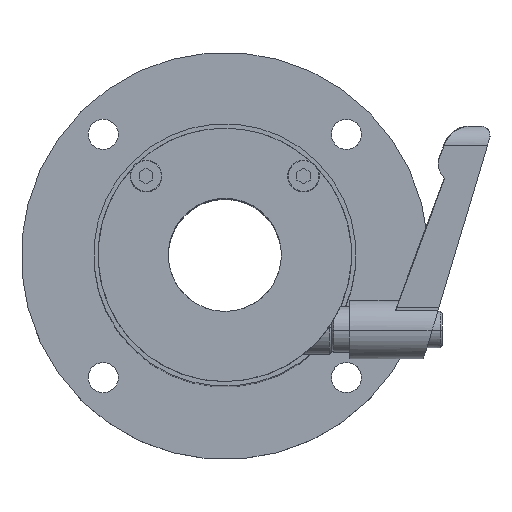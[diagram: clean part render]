
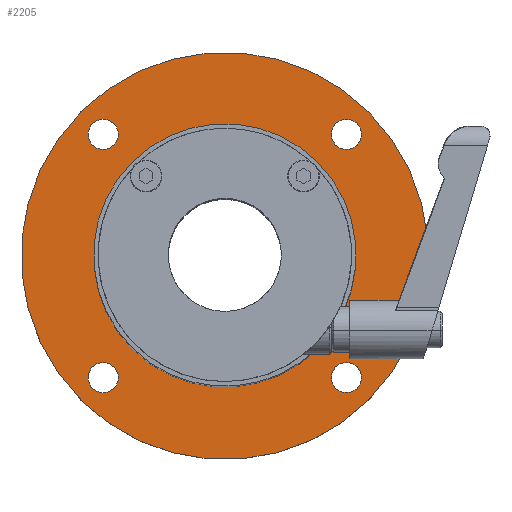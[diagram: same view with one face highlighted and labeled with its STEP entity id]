
A CAD part, top view. The second image highlights one B-rep face of the part: STEP entity #2205.
In plain terms, the highlighted planar face has unit normal (0, 0, 1).
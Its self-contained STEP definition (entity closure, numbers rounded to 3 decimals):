
#109 = PLANE ( 'NONE',  #4576 ) ;
#141 = EDGE_CURVE ( 'NONE', #5905, #3443, #7037, .T. ) ;
#209 = FACE_BOUND ( 'NONE', #997, .T. ) ;
#233 = DIRECTION ( 'NONE',  ( -0.707, -0.707, 0. ) ) ;
#242 = CARTESIAN_POINT ( 'NONE',  ( -25.297, 25.291, 78. ) ) ;
#259 = CARTESIAN_POINT ( 'NONE',  ( 28.443, 29.991, 78. ) ) ;
#471 = CARTESIAN_POINT ( 'NONE',  ( 3.923, 0.771, 78. ) ) ;
#481 = EDGE_CURVE ( 'NONE', #4512, #9428, #5369, .T. ) ;
#565 = DIRECTION ( 'NONE',  ( 0., 0., -1. ) ) ;
#575 = DIRECTION ( 'NONE',  ( 0., 0., -1. ) ) ;
#653 = EDGE_CURVE ( 'NONE', #1469, #8098, #7497, .T. ) ;
#705 = CARTESIAN_POINT ( 'NONE',  ( -25.297, -23.749, 78. ) ) ;
#748 = AXIS2_PLACEMENT_3D ( 'NONE', #9544, #565, #8626 ) ;
#775 = ORIENTED_EDGE ( 'NONE', *, *, #141, .T. ) ;
#854 = DIRECTION ( 'NONE',  ( 0.707, 0.707, 0. ) ) ;
#907 = AXIS2_PLACEMENT_3D ( 'NONE', #471, #2702, #1198 ) ;
#972 = DIRECTION ( 'NONE',  ( -0.707, -0.707, 0. ) ) ;
#978 = AXIS2_PLACEMENT_3D ( 'NONE', #8338, #3726, #854 ) ;
#997 = EDGE_LOOP ( 'NONE', ( #7755, #2566 ) ) ;
#1106 = VERTEX_POINT ( 'NONE', #259 ) ;
#1184 = EDGE_LOOP ( 'NONE', ( #6793, #6377 ) ) ;
#1198 = DIRECTION ( 'NONE',  ( -0.707, -0.707, 0. ) ) ;
#1268 = ORIENTED_EDGE ( 'NONE', *, *, #7206, .T. ) ;
#1328 = VERTEX_POINT ( 'NONE', #3420 ) ;
#1469 = VERTEX_POINT ( 'NONE', #7656 ) ;
#1513 = CIRCLE ( 'NONE', #5559, 3.324 ) ;
#1530 = EDGE_CURVE ( 'NONE', #8098, #1469, #8015, .T. ) ;
#1544 = CARTESIAN_POINT ( 'NONE',  ( 33.143, -23.749, 78. ) ) ;
#1701 = DIRECTION ( 'NONE',  ( -0.707, 0.707, 0. ) ) ;
#1710 = CARTESIAN_POINT ( 'NONE',  ( -27.897, -31.049, 78. ) ) ;
#1903 = CIRCLE ( 'NONE', #978, 3.324 ) ;
#1977 = CIRCLE ( 'NONE', #907, 45. ) ;
#2053 = ORIENTED_EDGE ( 'NONE', *, *, #481, .F. ) ;
#2124 = VERTEX_POINT ( 'NONE', #2398 ) ;
#2182 = EDGE_LOOP ( 'NONE', ( #2053, #3541 ) ) ;
#2205 = ADVANCED_FACE ( 'NONE', ( #4590, #4539, #209, #6827, #3126, #9094 ), #109, .T. ) ;
#2398 = CARTESIAN_POINT ( 'NONE',  ( 33.143, 25.291, 78. ) ) ;
#2551 = AXIS2_PLACEMENT_3D ( 'NONE', #9096, #3129, #3079 ) ;
#2566 = ORIENTED_EDGE ( 'NONE', *, *, #8729, .T. ) ;
#2702 = DIRECTION ( 'NONE',  ( 0., 0., -1. ) ) ;
#2845 = AXIS2_PLACEMENT_3D ( 'NONE', #7523, #4599, #3663 ) ;
#2859 = VERTEX_POINT ( 'NONE', #705 ) ;
#2932 = EDGE_CURVE ( 'NONE', #3443, #5905, #1903, .T. ) ;
#3077 = CARTESIAN_POINT ( 'NONE',  ( -22.24, -25.392, 78. ) ) ;
#3079 = DIRECTION ( 'NONE',  ( -0.707, -0.707, 0. ) ) ;
#3094 = ORIENTED_EDGE ( 'NONE', *, *, #2932, .T. ) ;
#3126 = FACE_BOUND ( 'NONE', #5869, .T. ) ;
#3129 = DIRECTION ( 'NONE',  ( 0., 0., -1. ) ) ;
#3218 = DIRECTION ( 'NONE',  ( 0., 0., -1. ) ) ;
#3301 = AXIS2_PLACEMENT_3D ( 'NONE', #8767, #8712, #5751 ) ;
#3420 = CARTESIAN_POINT ( 'NONE',  ( 24.429, 21.277, 78. ) ) ;
#3443 = VERTEX_POINT ( 'NONE', #9484 ) ;
#3541 = ORIENTED_EDGE ( 'NONE', *, *, #7135, .F. ) ;
#3663 = DIRECTION ( 'NONE',  ( 0.707, 0.707, 0. ) ) ;
#3688 = ORIENTED_EDGE ( 'NONE', *, *, #3882, .T. ) ;
#3695 = CIRCLE ( 'NONE', #748, 29. ) ;
#3726 = DIRECTION ( 'NONE',  ( 0., 0., -1. ) ) ;
#3728 = DIRECTION ( 'NONE',  ( -0.707, 0.707, 0. ) ) ;
#3849 = ORIENTED_EDGE ( 'NONE', *, *, #1530, .T. ) ;
#3882 = EDGE_CURVE ( 'NONE', #5975, #2859, #4602, .T. ) ;
#4208 = AXIS2_PLACEMENT_3D ( 'NONE', #4399, #9593, #5140 ) ;
#4317 = DIRECTION ( 'NONE',  ( -0.707, 0.707, 0. ) ) ;
#4348 = AXIS2_PLACEMENT_3D ( 'NONE', #7525, #9052, #8280 ) ;
#4399 = CARTESIAN_POINT ( 'NONE',  ( 30.793, -26.099, 78. ) ) ;
#4428 = AXIS2_PLACEMENT_3D ( 'NONE', #4671, #6899, #233 ) ;
#4512 = VERTEX_POINT ( 'NONE', #1710 ) ;
#4525 = EDGE_LOOP ( 'NONE', ( #3094, #775 ) ) ;
#4539 = FACE_BOUND ( 'NONE', #4525, .T. ) ;
#4576 = AXIS2_PLACEMENT_3D ( 'NONE', #3077, #8271, #1701 ) ;
#4590 = FACE_OUTER_BOUND ( 'NONE', #2182, .T. ) ;
#4599 = DIRECTION ( 'NONE',  ( 0., 0., -1. ) ) ;
#4602 = CIRCLE ( 'NONE', #7869, 3.324 ) ;
#4671 = CARTESIAN_POINT ( 'NONE',  ( 3.923, 0.771, 78. ) ) ;
#5140 = DIRECTION ( 'NONE',  ( -0.707, -0.707, 0. ) ) ;
#5178 = EDGE_LOOP ( 'NONE', ( #8451, #3849 ) ) ;
#5224 = DIRECTION ( 'NONE',  ( 0., 0., -1. ) ) ;
#5369 = CIRCLE ( 'NONE', #4428, 45. ) ;
#5440 = EDGE_CURVE ( 'NONE', #1328, #8342, #8284, .T. ) ;
#5559 = AXIS2_PLACEMENT_3D ( 'NONE', #6012, #5224, #3728 ) ;
#5751 = DIRECTION ( 'NONE',  ( 0.707, -0.707, 0. ) ) ;
#5869 = EDGE_LOOP ( 'NONE', ( #1268, #3688 ) ) ;
#5905 = VERTEX_POINT ( 'NONE', #242 ) ;
#5923 = CIRCLE ( 'NONE', #3301, 3.324 ) ;
#5975 = VERTEX_POINT ( 'NONE', #6560 ) ;
#6012 = CARTESIAN_POINT ( 'NONE',  ( -22.947, -26.099, 78. ) ) ;
#6155 = CARTESIAN_POINT ( 'NONE',  ( 35.743, 32.59, 78. ) ) ;
#6377 = ORIENTED_EDGE ( 'NONE', *, *, #5440, .T. ) ;
#6560 = CARTESIAN_POINT ( 'NONE',  ( -20.597, -28.45, 78. ) ) ;
#6600 = CARTESIAN_POINT ( 'NONE',  ( -16.583, -19.736, 78. ) ) ;
#6793 = ORIENTED_EDGE ( 'NONE', *, *, #7161, .T. ) ;
#6827 = FACE_BOUND ( 'NONE', #5178, .T. ) ;
#6899 = DIRECTION ( 'NONE',  ( 0., 0., -1. ) ) ;
#7037 = CIRCLE ( 'NONE', #2845, 3.324 ) ;
#7135 = EDGE_CURVE ( 'NONE', #9428, #4512, #1977, .T. ) ;
#7161 = EDGE_CURVE ( 'NONE', #8342, #1328, #3695, .T. ) ;
#7206 = EDGE_CURVE ( 'NONE', #2859, #5975, #1513, .T. ) ;
#7497 = CIRCLE ( 'NONE', #4208, 3.324 ) ;
#7523 = CARTESIAN_POINT ( 'NONE',  ( -22.947, 27.641, 78. ) ) ;
#7525 = CARTESIAN_POINT ( 'NONE',  ( 30.793, 27.641, 78. ) ) ;
#7639 = CIRCLE ( 'NONE', #4348, 3.324 ) ;
#7656 = CARTESIAN_POINT ( 'NONE',  ( 28.443, -28.45, 78. ) ) ;
#7726 = AXIS2_PLACEMENT_3D ( 'NONE', #9083, #3218, #972 ) ;
#7755 = ORIENTED_EDGE ( 'NONE', *, *, #9316, .T. ) ;
#7869 = AXIS2_PLACEMENT_3D ( 'NONE', #7926, #575, #4317 ) ;
#7926 = CARTESIAN_POINT ( 'NONE',  ( -22.947, -26.099, 78. ) ) ;
#8015 = CIRCLE ( 'NONE', #7726, 3.324 ) ;
#8098 = VERTEX_POINT ( 'NONE', #1544 ) ;
#8271 = DIRECTION ( 'NONE',  ( 0., 0., 1. ) ) ;
#8280 = DIRECTION ( 'NONE',  ( 0.707, -0.707, 0. ) ) ;
#8284 = CIRCLE ( 'NONE', #2551, 29. ) ;
#8338 = CARTESIAN_POINT ( 'NONE',  ( -22.947, 27.641, 78. ) ) ;
#8342 = VERTEX_POINT ( 'NONE', #6600 ) ;
#8451 = ORIENTED_EDGE ( 'NONE', *, *, #653, .T. ) ;
#8626 = DIRECTION ( 'NONE',  ( -0.707, -0.707, 0. ) ) ;
#8712 = DIRECTION ( 'NONE',  ( 0., 0., -1. ) ) ;
#8729 = EDGE_CURVE ( 'NONE', #1106, #2124, #7639, .T. ) ;
#8767 = CARTESIAN_POINT ( 'NONE',  ( 30.793, 27.641, 78. ) ) ;
#9052 = DIRECTION ( 'NONE',  ( 0., 0., -1. ) ) ;
#9083 = CARTESIAN_POINT ( 'NONE',  ( 30.793, -26.099, 78. ) ) ;
#9094 = FACE_BOUND ( 'NONE', #1184, .T. ) ;
#9096 = CARTESIAN_POINT ( 'NONE',  ( 3.923, 0.771, 78. ) ) ;
#9316 = EDGE_CURVE ( 'NONE', #2124, #1106, #5923, .T. ) ;
#9428 = VERTEX_POINT ( 'NONE', #6155 ) ;
#9484 = CARTESIAN_POINT ( 'NONE',  ( -20.597, 29.991, 78. ) ) ;
#9544 = CARTESIAN_POINT ( 'NONE',  ( 3.923, 0.771, 78. ) ) ;
#9593 = DIRECTION ( 'NONE',  ( 0., 0., -1. ) ) ;
